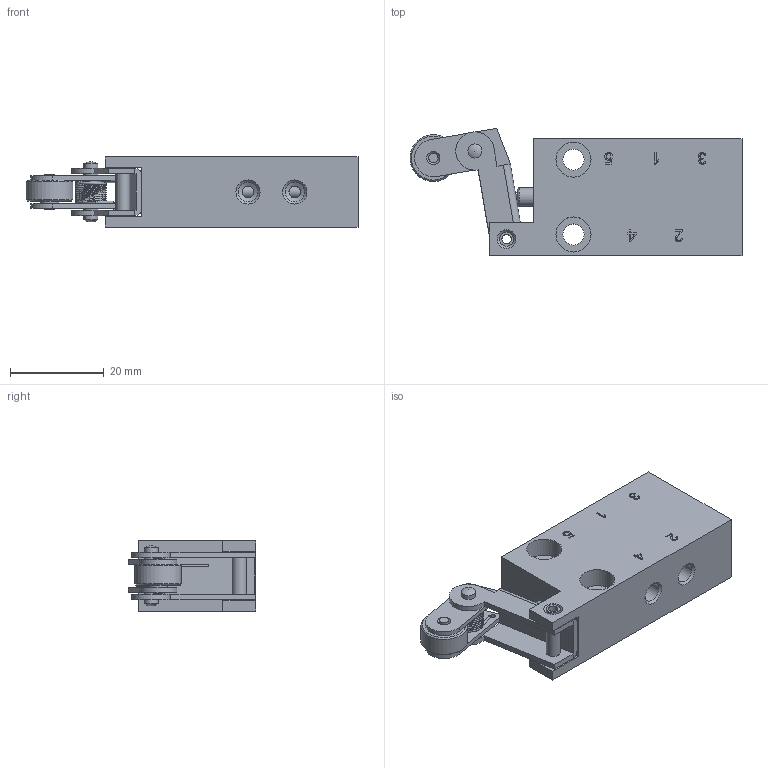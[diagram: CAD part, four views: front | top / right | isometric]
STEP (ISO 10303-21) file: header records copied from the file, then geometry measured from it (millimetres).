
FILE_DESCRIPTION(/* description */ ('Unknown','CAx-IF Rec.Pracs.---Representation and Presentation of Product Manufacturing Information (PMI)---4.0---2014-10-13','CAx-IF Rec.Pracs.---3D Tessellated Geometry---0.4---2014-09-14','2;1'),/* implementation_level */ '2;1');
FILE_NAME(/* name */ 'BL 511 201',/* time_stamp */ '2020-07-06T15:26:58+02:00',/* author */ ('Unknown'),/* organization */ ('Unknown'),/* preprocessor_version */ 'ST-DEVELOPER v16.7',/* originating_system */ 'DEX',/* authorisation */ $);
FILE_SCHEMA (('AP242_MANAGED_MODEL_BASED_3D_ENGINEERING_MIM_LF { 1 0 10303 442 20130219 1 4 }'));
Length unit declared in the file: millimetre
Products named in the file (2): BL 511 201
Assembly tree (1 placements, depth 2):
  BL 511 201
    BL 511 201
Bounding box: 70.93 x 27.18 x 15.2 mm (x, y, z)
Volume: 15517.1 mm3; surface area: 10667.3 mm2
Topology: 12 solids, 12 shells, 289 faces, 733 edges, 484 vertices
Faces by surface type: plane 136, cylinder 69, bspline 53, cone 27, sphere 3, torus 1
Full cylindrical faces by diameter (mm): 0.5 x3, 1 x2, 2 x5, 2.5 x5, 2.8 x2, 3 x10, 4 x5, 4.05 x1, 4.134 x10, 4.5 x2, 5 x1, 6 x1, 7 x1, 7.5 x4, 8 x1, 8.06 x1, 8.08 x1, 10 x1
Entity records: 13135 total; most frequent: CARTESIAN_POINT 5559, ORIENTED_EDGE 1206, DIRECTION 1125, EDGE_CURVE 603, EDGE_LOOP 444, FACE_BOUND 444, VERTEX_POINT 443, AXIS2_PLACEMENT_3D 395
